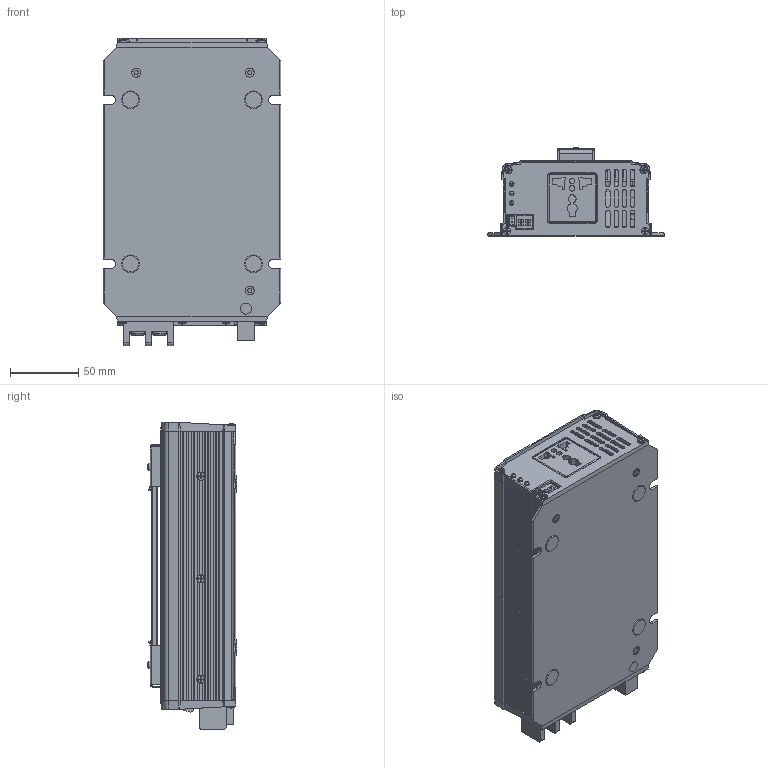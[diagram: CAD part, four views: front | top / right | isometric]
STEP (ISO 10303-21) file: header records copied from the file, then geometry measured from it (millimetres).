
FILE_DESCRIPTION(('Creo Elements/Direct Modeling STEP Export'),'2;1');
FILE_NAME('NTS-450UN.stp','2021-04-16T19:51:44',(''),(''),'PTC Creo Elements/Direct Modeling STEP processor for AP214 (Solid Model)','PTC Creo Elements/Direct Modeling 19.0A 04-Oct-2014 (C) Parametric Technology GmbH','');
FILE_SCHEMA(('AUTOMOTIVE_DESIGN { 1 0 10303 214 1 1 1 1 }'));
Length unit declared in the file: millimetre
Products named in the file (127): CASE1下盖22; M3-5.5-3; 77; M3-5.5-1; M3-5.5-2; 下盖; FOOT_PAD_7_1.PRT.29; FOOT_PAD_7_1.PRT; FOOT_PAD_7_1.PRT.31; FOOT_PAD_7_1.PRT.30; PAD; 上盖; 19-30281-0250__w__.1; 19-30281-0250__w__.2.1; 19-30281-0250__w__.2.1.1; 19-30281-0250__w__.2; 19-30281-0250__w__.2.1.1.1; 19-30281-0250__w__; 19-30286-1312__w__.1.1.1.1; 19-30286-1312__w__.1.1.1; 19-30286-1312__w__.1; 19-30286-1312__w__.1.1; 面板螺丝; 面板螺丝2; 19-30286-1312__w__.1.2; 19-30286-1312__w__.1.2.1; 螺丝; 1HH2NTS-450; p1; 1.4; 1.5; 1.3; 1.2; 1.1; 1.6; 2.2; 2.1; 2.5; 2.4; 2.3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
Assembly tree (126 placements, depth 5):
  NTS-450
    万国插
    1xx3NTS-450CN-O
      1xx3NTS-450CN-O
    1XX3NTS-450-I
    风扇螺丝
      19-30286-1312__w__.1.2.1.1.1
      19-30286-1312__w__.1.2.1.1
      19-30286-1312__w__.1.2.1
      19-30286-1312__w__.1.2
    把手
      174
      guwei1
      guwei1.1
    FAN
      26D77668-81B1-466B-87E3--601440.PRT
    输入端装配2
      ON.PRT.1
      FG.1
      TN_1
    装配2
      TF
      c2.1
      c2
      CX2
      CX1
      CX1.1
      CX2.1
      CX1.1.1
      C
    HS
      1GG1HS-SZ137.1
      1GG1HS-SZ137
      1GG4CU-SZ028
      1GG4CU-SZ030
      1GG4CU-SZ029
      1GG1HS-SZ137old
      1GG1HS-SZ138
      1GG1HS-SZ129
        PIN2-2.1
        PIN2-2
        SZ1
      1GG1HS-SZ130
        PIN2-2.1
        PIN2-2
        SZ1
    MOS
      TO220(2).2.1.1.1.2.2.1.1.1
      TO220(2).2.1.1.1.2.2.1.1
      TO220(2).2.1.1.1.2.2.1
      TO220(2).2.1.1.1.2.2
      TO220(2).2.1.1.1.2.1
      TO220(2).2.1.1.1.2
      TO220(2).2.1.1
      TO220(2).2
      TO220(2).2.1
      TO220(2).1
      TO220(2)
      TO220(2).2.1.1.1.1
    PCB
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Bounding box: 130 x 65.32 x 224.92 mm (x, y, z)
Volume: 482231.8 mm3; surface area: 417298.9 mm2
Topology: 103 solids, 103 shells, 5843 faces, 15461 edges, 9972 vertices
Faces by surface type: plane 4346, cylinder 981, cone 242, bspline 150, sphere 62, torus 58, extrusion 4
Entity records: 207851 total; most frequent: CARTESIAN_POINT 63506, ORIENTED_EDGE 30686, DIRECTION 26615, EDGE_CURVE 15341, VECTOR 11845, LINE 11841, VERTEX_POINT 9972, AXIS2_PLACEMENT_3D 7385
